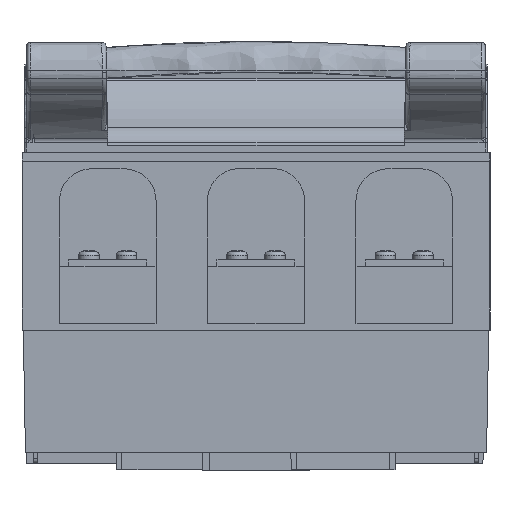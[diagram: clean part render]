
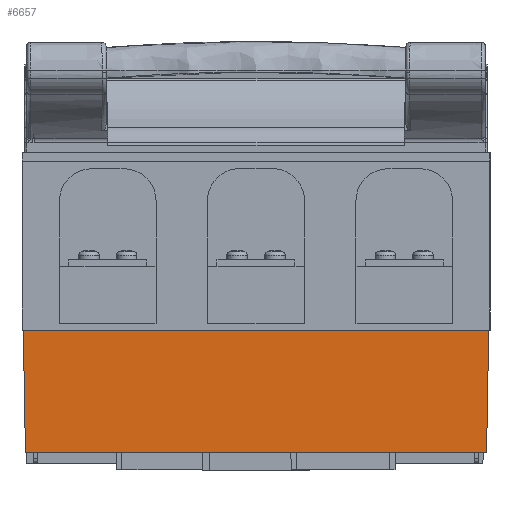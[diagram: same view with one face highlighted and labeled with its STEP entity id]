
A CAD part, left-side view. The second image highlights one B-rep face of the part: STEP entity #6657.
In plain terms, the highlighted planar face has unit normal (-1, 0, -0.018).
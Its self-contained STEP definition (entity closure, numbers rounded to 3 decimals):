
#3887=PLANE('',#51744);
#6657=ADVANCED_FACE('',(#9470),#3887,.T.);
#9470=FACE_OUTER_BOUND('',#12154,.T.);
#12154=EDGE_LOOP('',(#32714,#32715,#32716,#32717));
#14843=LINE('',#65276,#18225);
#17234=LINE('',#94366,#20666);
#17237=LINE('',#94372,#20669);
#17238=LINE('',#94374,#20670);
#18225=VECTOR('',#52507,1.);
#20666=VECTOR('',#62930,1.);
#20669=VECTOR('',#62935,1.);
#20670=VECTOR('',#62938,1.);
#32714=ORIENTED_EDGE('',*,*,#39634,.F.);
#32715=ORIENTED_EDGE('',*,*,#45238,.T.);
#32716=ORIENTED_EDGE('',*,*,#45239,.T.);
#32717=ORIENTED_EDGE('',*,*,#45235,.F.);
#35249=VERTEX_POINT('',#65275);
#35250=VERTEX_POINT('',#65277);
#38860=VERTEX_POINT('',#94367);
#38861=VERTEX_POINT('',#94371);
#39634=EDGE_CURVE('',#35249,#35250,#14843,.T.);
#45235=EDGE_CURVE('',#35250,#38860,#17234,.T.);
#45238=EDGE_CURVE('',#35249,#38861,#17237,.T.);
#45239=EDGE_CURVE('',#38861,#38860,#17238,.T.);
#51744=AXIS2_PLACEMENT_3D('',#94375,#62939,#62940);
#52507=DIRECTION('',(0.,-1.,0.));
#62930=DIRECTION('',(0.017,0.017,-1.));
#62935=DIRECTION('',(0.017,-0.017,-1.));
#62938=DIRECTION('',(0.,-1.,0.));
#62939=DIRECTION('',(-1.,0.,-0.017));
#62940=DIRECTION('',(-0.017,0.,1.));
#65275=CARTESIAN_POINT('',(-55.,89.5,27.));
#65276=CARTESIAN_POINT('',(-55.,89.5,27.));
#65277=CARTESIAN_POINT('',(-55.,-89.5,27.));
#94366=CARTESIAN_POINT('',(-55.,-89.5,27.));
#94367=CARTESIAN_POINT('',(-54.18,-88.68,-20.));
#94371=CARTESIAN_POINT('',(-54.18,88.68,-20.));
#94372=CARTESIAN_POINT('',(-55.,89.5,27.));
#94374=CARTESIAN_POINT('',(-54.18,89.5,-20.));
#94375=CARTESIAN_POINT('',(-55.,89.5,27.));
